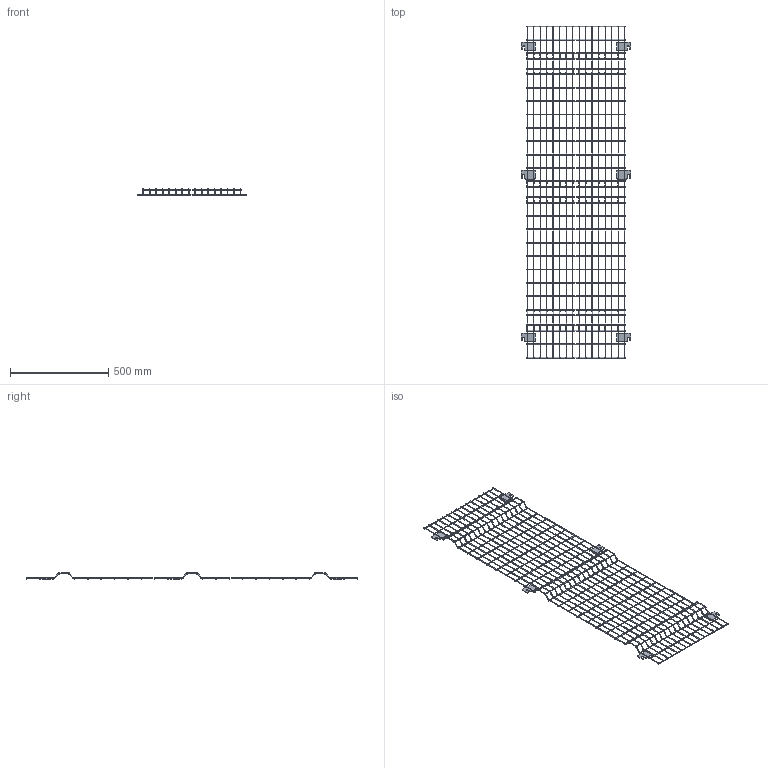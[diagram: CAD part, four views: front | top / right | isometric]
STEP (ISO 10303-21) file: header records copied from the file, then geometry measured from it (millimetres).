
FILE_DESCRIPTION (( 'STEP AP203' ), '1' );
FILE_NAME ('Frameless Panel 500 x 1688.STEP', '2023-09-15T16:50:14', ( '' ), ( '' ), 'SwSTEP 2.0', 'SolidWorks 2023', '' );
FILE_SCHEMA (( 'CONFIG_CONTROL_DESIGN' ));
Length unit declared in the file: millimetre
Products named in the file (1): Frameless Panel 500 x 1688
Bounding box: 556 x 1688 x 32 mm (x, y, z)
Volume: 600815.8 mm3; surface area: 581657.3 mm2
Topology: 52 solids, 52 shells, 1048 faces, 2064 edges, 1120 vertices
Faces by surface type: cylinder 518, torus 384, plane 146
Entity records: 26679 total; most frequent: DIRECTION 5582, CARTESIAN_POINT 4233, ORIENTED_EDGE 4128, AXIS2_PLACEMENT_3D 2469, EDGE_CURVE 2064, CIRCLE 1420, VERTEX_POINT 1120, ADVANCED_FACE 1048
